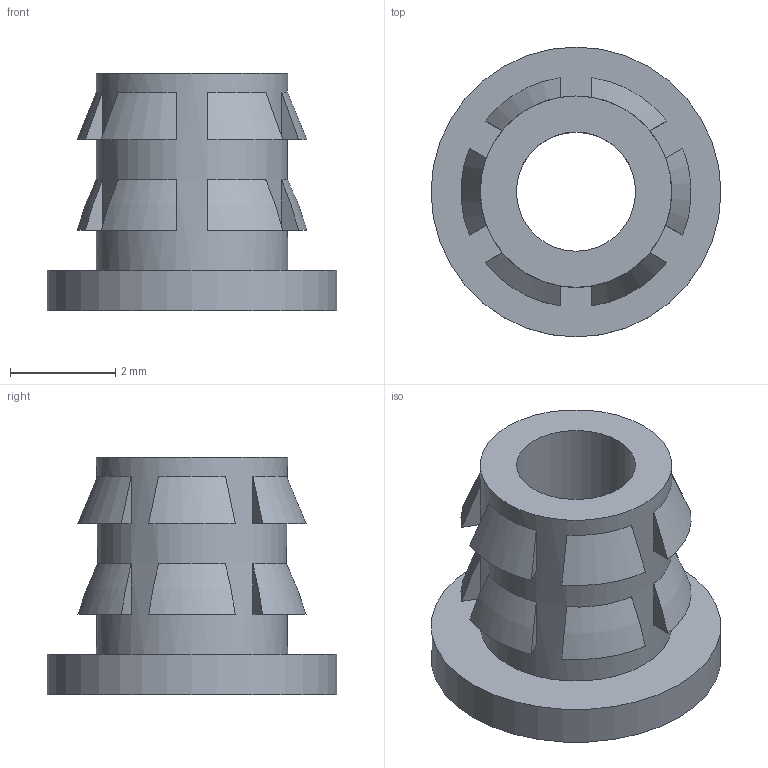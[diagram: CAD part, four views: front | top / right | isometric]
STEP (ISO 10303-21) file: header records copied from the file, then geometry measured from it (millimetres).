
FILE_DESCRIPTION (( 'STEP AP214' ), '1' );
FILE_NAME ('Flanged Insert 4-40 S1.STEP', '2017-08-09T10:36:33', ( '微软用户' ), ( '微软中国' ), 'SwSTEP 2.0', 'SolidWorks 2015', '' );
FILE_SCHEMA (( 'AUTOMOTIVE_DESIGN' ));
Length unit declared in the file: millimetre
Products named in the file (1): Flanged Insert 4-40 S1
Bounding box: 5.5 x 5.5 x 4.5 mm (x, y, z)
Volume: 40.4 mm3; surface area: 139.9 mm2
Topology: 1 solids, 1 shells, 55 faces, 126 edges, 84 vertices
Faces by surface type: plane 39, torus 12, cylinder 3, cone 1
Full cylindrical faces by diameter (mm): 2.261 x1, 3.632 x1, 5.5 x1
Entity records: 1585 total; most frequent: CARTESIAN_POINT 346, DIRECTION 246, ORIENTED_EDGE 230, EDGE_CURVE 115, AXIS2_PLACEMENT_3D 99, VERTEX_POINT 79, EDGE_LOOP 74, FACE_OUTER_BOUND 58
